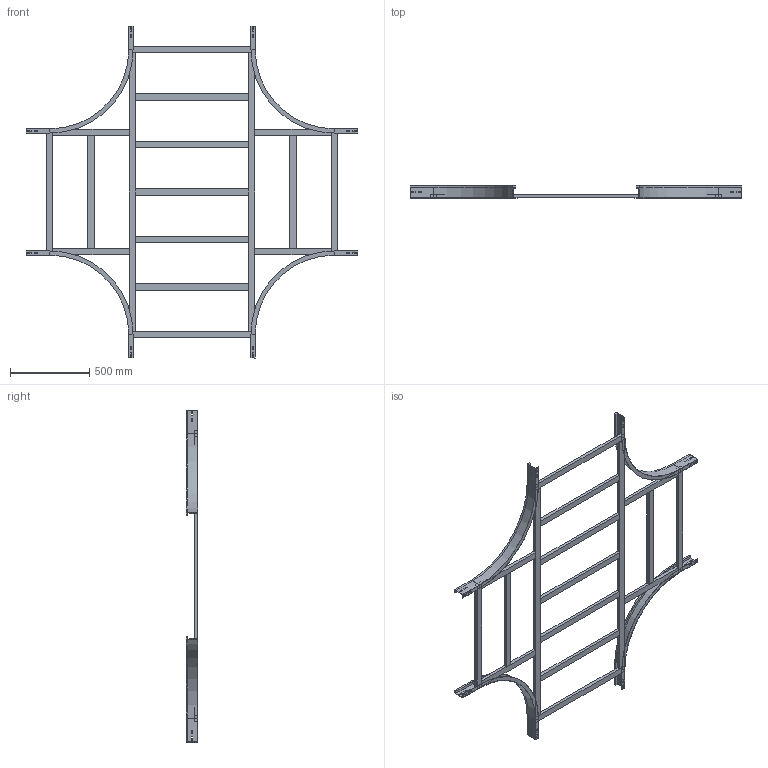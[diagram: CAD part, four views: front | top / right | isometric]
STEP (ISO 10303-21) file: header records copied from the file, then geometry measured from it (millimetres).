
FILE_DESCRIPTION (( 'STEP AP214' ), '1' );
FILE_NAME ('17B5C800.step', '2025-02-21T15:58:15', ( '' ), ( '' ), 'SwSTEP 2.0', 'SolidWorks 2023', '' );
FILE_SCHEMA (( 'AUTOMOTIVE_DESIGN' ));
Length unit declared in the file: millimetre
Products named in the file (7): LONGH.INTERNO 90°_H75_R500; TRAVERSINO_INTERMEDIO_R500+800; TRAVERSINO_LONG._R500+800; TRAVERSINO_VERT_R500; 17B5C800; TRAVERSINO_800; TRAVERSINO_COPPIA_800
Assembly tree (21 placements, depth 2):
  17B5C800
    LONGH.INTERNO 90°_H75_R500  x4
    TRAVERSINO_800  x4
    TRAVERSINO_LONG._R500+800  x2
    TRAVERSINO_INTERMEDIO_R500+800  x5
    TRAVERSINO_VERT_R500  x4
    TRAVERSINO_COPPIA_800  x2
Bounding box: 2100 x 75 x 2100 mm (x, y, z)
Volume: 12753959.8 mm3; surface area: 2708036.9 mm2
Topology: 21 solids, 21 shells, 334 faces, 812 edges, 520 vertices
Faces by surface type: plane 318, cylinder 16
Entity records: 2868 total; most frequent: CARTESIAN_POINT 460, DIRECTION 444, ORIENTED_EDGE 424, EDGE_CURVE 212, LINE 204, VECTOR 204, VERTEX_POINT 136, AXIS2_PLACEMENT_3D 120
